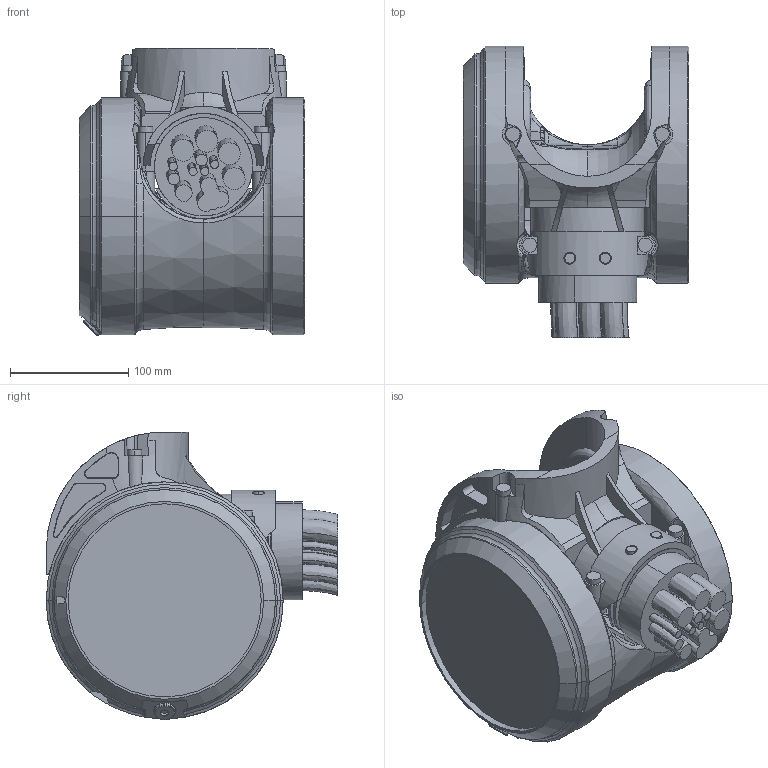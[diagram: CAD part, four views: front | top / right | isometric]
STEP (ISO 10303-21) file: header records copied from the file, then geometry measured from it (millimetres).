
FILE_DESCRIPTION (( 'STEP AP214' ), '1' );
FILE_NAME ('IRB6720-LID_140kg-320_OC_00_LINK06_CABLE.step', '2026-06-10T12:10:59', ( '' ), ( '' ), 'SwSTEP 2.0', 'SolidWorks 2024', '' );
FILE_SCHEMA (( 'AUTOMOTIVE_DESIGN' ));
Length unit declared in the file: millimetre
Products named in the file (1): IRB6720-LID_140kg-320_OC_00_LINK06_CABLE
Bounding box: 190.5 x 246.09 x 242.9 mm (x, y, z)
Volume: 3702827 mm3; surface area: 348613.7 mm2
Topology: 1 solids, 1 shells, 752 faces, 1953 edges, 1197 vertices
Faces by surface type: bspline 212, cylinder 174, plane 159, cone 123, torus 80, sphere 4
Entity records: 41095 total; most frequent: CARTESIAN_POINT 24563, ORIENTED_EDGE 3856, DIRECTION 2989, EDGE_CURVE 1928, AXIS2_PLACEMENT_3D 1238, VERTEX_POINT 1197, EDGE_LOOP 797, ADVANCED_FACE 752
